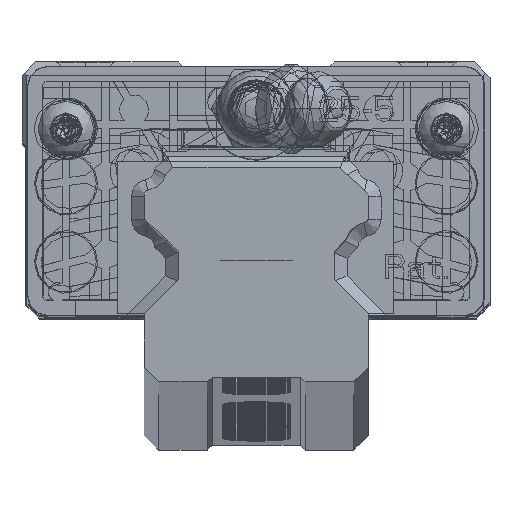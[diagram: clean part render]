
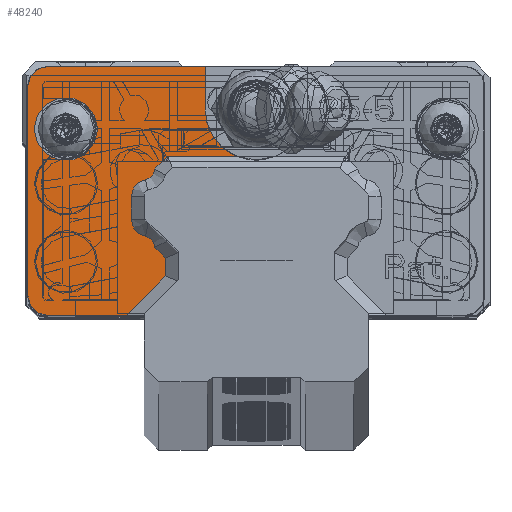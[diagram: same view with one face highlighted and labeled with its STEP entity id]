
A CAD part, top view. The second image highlights one B-rep face of the part: STEP entity #48240.
In plain terms, the highlighted planar face has unit normal (0, 0, 1).
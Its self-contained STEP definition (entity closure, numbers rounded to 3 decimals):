
#1240=DIRECTION('',(-1.,0.,0.));
#1241=VECTOR('',#1240,7.076);
#1242=CARTESIAN_POINT('',(-2.01,5.3,44.));
#1243=LINE('',#1242,#1241);
#1244=DIRECTION('',(-0.707,-0.707,0.));
#1245=VECTOR('',#1244,1.849);
#1246=CARTESIAN_POINT('',(-9.086,5.3,44.));
#1247=LINE('',#1246,#1245);
#1248=CARTESIAN_POINT('',(-11.567,4.067,44.));
#1249=DIRECTION('',(0.,0.,-1.));
#1250=DIRECTION('',(0.998,-0.064,0.));
#1251=AXIS2_PLACEMENT_3D('',#1248,#1249,#1250);
#1253=CARTESIAN_POINT('',(-11.,1.145,44.));
#1254=DIRECTION('',(0.,0.,1.));
#1255=DIRECTION('',(-0.191,0.982,0.));
#1256=AXIS2_PLACEMENT_3D('',#1253,#1254,#1255);
#1258=DIRECTION('',(0.,-1.,0.));
#1259=VECTOR('',#1258,2.291);
#1260=CARTESIAN_POINT('',(-12.8,1.145,44.));
#1261=LINE('',#1260,#1259);
#1262=CARTESIAN_POINT('',(-11.,-1.145,44.));
#1263=DIRECTION('',(0.,0.,1.));
#1264=DIRECTION('',(-1.,0.,0.));
#1265=AXIS2_PLACEMENT_3D('',#1262,#1263,#1264);
#1267=CARTESIAN_POINT('',(-11.567,-4.067,
44.));
#1268=DIRECTION('',(0.,0.,-1.));
#1269=DIRECTION('',(0.191,0.982,0.));
#1270=AXIS2_PLACEMENT_3D('',#1267,#1268,#1269);
#1272=DIRECTION('',(0.,-1.,0.));
#1273=VECTOR('',#1272,1.823);
#1274=CARTESIAN_POINT('',(-9.3,-5.138,44.));
#1275=LINE('',#1274,#1273);
#1276=DIRECTION('',(-0.707,-0.707,0.));
#1277=VECTOR('',#1276,5.711);
#1278=CARTESIAN_POINT('',(-9.3,-6.962,44.));
#1279=LINE('',#1278,#1277);
#1280=CARTESIAN_POINT('',(-21.4,-9.,44.));
#1281=DIRECTION('',(0.,0.,-1.));
#1282=DIRECTION('',(0.,-1.,0.));
#1283=AXIS2_PLACEMENT_3D('',#1280,#1281,#1282);
#1285=CARTESIAN_POINT('',(-21.4,12.5,44.));
#1286=DIRECTION('',(0.,0.,-1.));
#1287=DIRECTION('',(-1.,0.,0.));
#1288=AXIS2_PLACEMENT_3D('',#1285,#1286,#1287);
#1290=DIRECTION('',(0.,-1.,0.));
#1291=VECTOR('',#1290,4.35);
#1292=CARTESIAN_POINT('',(-5.25,14.5,44.));
#1293=LINE('',#1292,#1291);
#1294=CARTESIAN_POINT('',(0.,10.15,44.));
#1295=DIRECTION('',(0.,0.,1.));
#1296=DIRECTION('',(-1.,0.,0.));
#1297=AXIS2_PLACEMENT_3D('',#1294,#1295,#1296);
#1299=CARTESIAN_POINT('',(-19.5,8.1,44.));
#1300=DIRECTION('',(0.,0.,1.));
#1301=DIRECTION('',(-1.,0.,0.));
#1302=AXIS2_PLACEMENT_3D('',#1299,#1300,#1301);
#1304=CARTESIAN_POINT('',(-19.5,8.1,44.));
#1305=DIRECTION('',(0.,0.,1.));
#1306=DIRECTION('',(1.,0.,0.));
#1307=AXIS2_PLACEMENT_3D('',#1304,#1305,#1306);
#1341=DIRECTION('',(-0.707,0.707,0.));
#1342=VECTOR('',#1341,1.543);
#1343=CARTESIAN_POINT('',(-9.3,-5.138,44.));
#1344=LINE('',#1343,#1342);
#26858=DIRECTION('',(1.,0.,0.));
#26859=VECTOR('',#26858,8.062);
#26860=CARTESIAN_POINT('',(-21.4,-11.,44.));
#26861=LINE('',#26860,#26859);
#27257=DIRECTION('',(-1.,0.,0.));
#27258=VECTOR('',#27257,16.15);
#27259=CARTESIAN_POINT('',(-5.25,14.5,44.));
#27260=LINE('',#27259,#27258);
#27273=DIRECTION('',(0.,-1.,0.));
#27274=VECTOR('',#27273,21.5);
#27275=CARTESIAN_POINT('',(-23.4,12.5,44.));
#27276=LINE('',#27275,#27274);
#40764=CARTESIAN_POINT('',(-21.4,-11.,44.));
#40766=VERTEX_POINT('',#40764);
#40767=CARTESIAN_POINT('',(-13.338,-11.,
44.));
#40768=VERTEX_POINT('',#40767);
#40785=CARTESIAN_POINT('',(-23.4,-9.,44.));
#40786=VERTEX_POINT('',#40785);
#45186=CARTESIAN_POINT('',(-9.086,5.3,44.));
#45187=VERTEX_POINT('',#45186);
#45188=CARTESIAN_POINT('',(-2.01,5.3,44.));
#45189=VERTEX_POINT('',#45188);
#45592=CARTESIAN_POINT('',(-5.25,10.15,44.));
#45593=VERTEX_POINT('',#45592);
#45594=CARTESIAN_POINT('',(-10.393,3.992,
44.));
#45595=VERTEX_POINT('',#45594);
#45596=CARTESIAN_POINT('',(-11.343,2.912,
44.));
#45597=VERTEX_POINT('',#45596);
#45598=CARTESIAN_POINT('',(-12.8,1.145,
44.));
#45599=VERTEX_POINT('',#45598);
#45600=CARTESIAN_POINT('',(-12.8,-1.145,44.));
#45601=VERTEX_POINT('',#45600);
#45602=CARTESIAN_POINT('',(-11.343,-2.912,
44.));
#45603=VERTEX_POINT('',#45602);
#45604=CARTESIAN_POINT('',(-10.391,-4.047,
44.));
#45605=VERTEX_POINT('',#45604);
#45606=CARTESIAN_POINT('',(-9.3,-5.138,44.));
#45607=VERTEX_POINT('',#45606);
#45608=CARTESIAN_POINT('',(-9.3,-6.962,44.));
#45609=VERTEX_POINT('',#45608);
#45610=CARTESIAN_POINT('',(-23.4,12.5,44.));
#45611=VERTEX_POINT('',#45610);
#45612=CARTESIAN_POINT('',(-21.4,14.5,44.));
#45613=VERTEX_POINT('',#45612);
#45614=CARTESIAN_POINT('',(-5.25,14.5,44.));
#45615=VERTEX_POINT('',#45614);
#45616=CARTESIAN_POINT('',(-22.75,8.1,44.));
#45617=CARTESIAN_POINT('',(-16.25,8.1,44.));
#45618=VERTEX_POINT('',#45616);
#45619=VERTEX_POINT('',#45617);
#48200=CARTESIAN_POINT('',(0.,0.,44.));
#48201=DIRECTION('',(0.,0.,1.));
#48202=DIRECTION('',(1.,0.,0.));
#48203=AXIS2_PLACEMENT_3D('',#48200,#48201,#48202);
#48204=PLANE('',#48203);
#48205=ORIENTED_EDGE('',*,*,#47702,.T.);
#48206=ORIENTED_EDGE('',*,*,#47685,.T.);
#48207=ORIENTED_EDGE('',*,*,#47301,.T.);
#48208=ORIENTED_EDGE('',*,*,#47288,.T.);
#48209=ORIENTED_EDGE('',*,*,#47273,.T.);
#48210=ORIENTED_EDGE('',*,*,#47258,.T.);
#48212=ORIENTED_EDGE('',*,*,#48211,.T.);
#48214=ORIENTED_EDGE('',*,*,#48213,.F.);
#48216=ORIENTED_EDGE('',*,*,#48215,.T.);
#48218=ORIENTED_EDGE('',*,*,#48217,.T.);
#48220=ORIENTED_EDGE('',*,*,#48219,.F.);
#48222=ORIENTED_EDGE('',*,*,#48221,.T.);
#48224=ORIENTED_EDGE('',*,*,#48223,.F.);
#48226=ORIENTED_EDGE('',*,*,#48225,.T.);
#48228=ORIENTED_EDGE('',*,*,#48227,.F.);
#48230=ORIENTED_EDGE('',*,*,#48229,.T.);
#48231=ORIENTED_EDGE('',*,*,#48193,.T.);
#48232=EDGE_LOOP('',(#48205,#48206,#48207,#48208,#48209,#48210,#48212,#48214,
#48216,#48218,#48220,#48222,#48224,#48226,#48228,#48230,#48231));
#48233=FACE_OUTER_BOUND('',#48232,.F.);
#48235=ORIENTED_EDGE('',*,*,#48234,.T.);
#48237=ORIENTED_EDGE('',*,*,#48236,.T.);
#48238=EDGE_LOOP('',(#48235,#48237));
#48239=FACE_BOUND('',#48238,.F.);
#48240=ADVANCED_FACE('',(#48233,#48239),#48204,.T.);
#1252=CIRCLE('',#1251,1.176);
#1257=CIRCLE('',#1256,1.8);
#1266=CIRCLE('',#1265,1.8);
#1271=CIRCLE('',#1270,1.177);
#1284=CIRCLE('',#1283,2.);
#1289=CIRCLE('',#1288,2.);
#1298=CIRCLE('',#1297,5.25);
#1303=CIRCLE('',#1302,3.25);
#1308=CIRCLE('',#1307,3.25);
#47258=EDGE_CURVE('',#45601,#45603,#1266,.T.);
#47273=EDGE_CURVE('',#45599,#45601,#1261,.T.);
#47288=EDGE_CURVE('',#45597,#45599,#1257,.T.);
#47301=EDGE_CURVE('',#45595,#45597,#1252,.T.);
#47685=EDGE_CURVE('',#45187,#45595,#1247,.T.);
#47702=EDGE_CURVE('',#45189,#45187,#1243,.T.);
#48193=EDGE_CURVE('',#45593,#45189,#1298,.T.);
#48211=EDGE_CURVE('',#45603,#45605,#1271,.T.);
#48213=EDGE_CURVE('',#45607,#45605,#1344,.T.);
#48215=EDGE_CURVE('',#45607,#45609,#1275,.T.);
#48217=EDGE_CURVE('',#45609,#40768,#1279,.T.);
#48219=EDGE_CURVE('',#40766,#40768,#26861,.T.);
#48221=EDGE_CURVE('',#40766,#40786,#1284,.T.);
#48223=EDGE_CURVE('',#45611,#40786,#27276,.T.);
#48225=EDGE_CURVE('',#45611,#45613,#1289,.T.);
#48227=EDGE_CURVE('',#45615,#45613,#27260,.T.);
#48229=EDGE_CURVE('',#45615,#45593,#1293,.T.);
#48234=EDGE_CURVE('',#45618,#45619,#1303,.T.);
#48236=EDGE_CURVE('',#45619,#45618,#1308,.T.);
